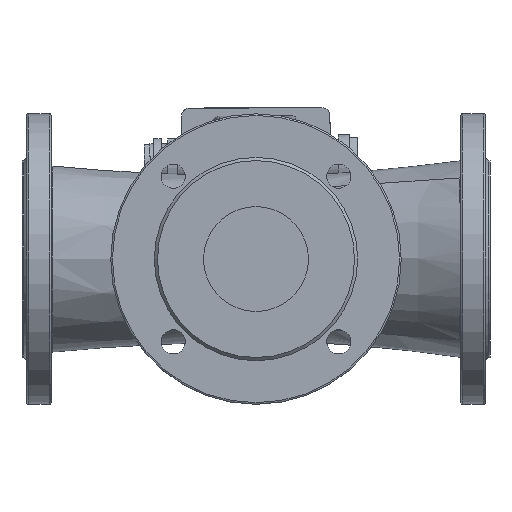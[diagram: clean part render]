
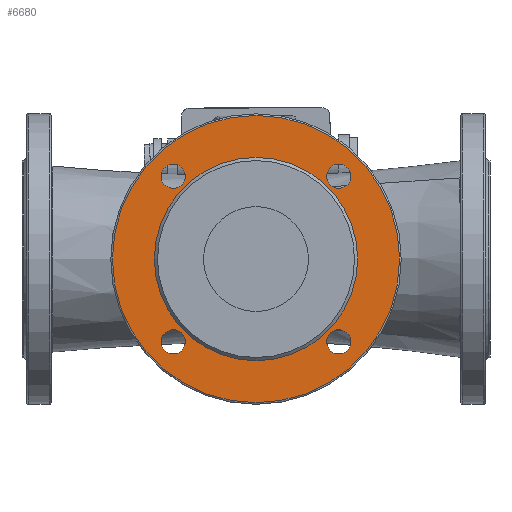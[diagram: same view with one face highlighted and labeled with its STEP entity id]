
A CAD part, front view. The second image highlights one B-rep face of the part: STEP entity #6680.
In plain terms, the highlighted planar face has unit normal (0, -1, 0).
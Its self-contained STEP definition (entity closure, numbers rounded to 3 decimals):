
#1333=PLANE('',#7436);
#1459=FACE_BOUND('',#2404,.T.);
#1460=FACE_BOUND('',#2405,.T.);
#1461=FACE_BOUND('',#2406,.T.);
#1462=FACE_BOUND('',#2407,.T.);
#1463=FACE_BOUND('',#2408,.T.);
#1878=FACE_OUTER_BOUND('',#2403,.T.);
#2403=EDGE_LOOP('',(#6084));
#2404=EDGE_LOOP('',(#6085));
#2405=EDGE_LOOP('',(#6086));
#2406=EDGE_LOOP('',(#6087));
#2407=EDGE_LOOP('',(#6088));
#2408=EDGE_LOOP('',(#6089));
#2753=CIRCLE('',#7375,7.5);
#2755=CIRCLE('',#7378,7.5);
#2757=CIRCLE('',#7381,7.5);
#2759=CIRCLE('',#7384,7.5);
#2789=CIRCLE('',#7435,63.);
#2790=CIRCLE('',#7437,89.);
#3365=VERTEX_POINT('',#11550);
#3367=VERTEX_POINT('',#11555);
#3369=VERTEX_POINT('',#11560);
#3371=VERTEX_POINT('',#11565);
#3416=VERTEX_POINT('',#12801);
#3417=VERTEX_POINT('',#12804);
#4266=EDGE_CURVE('',#3365,#3365,#2753,.T.);
#4268=EDGE_CURVE('',#3367,#3367,#2755,.T.);
#4270=EDGE_CURVE('',#3369,#3369,#2757,.T.);
#4272=EDGE_CURVE('',#3371,#3371,#2759,.T.);
#4322=EDGE_CURVE('',#3416,#3416,#2789,.T.);
#4323=EDGE_CURVE('',#3417,#3417,#2790,.T.);
#6084=ORIENTED_EDGE('',*,*,#4323,.F.);
#6085=ORIENTED_EDGE('',*,*,#4266,.T.);
#6086=ORIENTED_EDGE('',*,*,#4268,.T.);
#6087=ORIENTED_EDGE('',*,*,#4270,.T.);
#6088=ORIENTED_EDGE('',*,*,#4272,.T.);
#6089=ORIENTED_EDGE('',*,*,#4322,.F.);
#6680=ADVANCED_FACE('',(#1878,#1459,#1460,#1461,#1462,#1463),#1333,.T.);
#7375=AXIS2_PLACEMENT_3D('',#11551,#9292,#9293);
#7378=AXIS2_PLACEMENT_3D('',#11556,#9298,#9299);
#7381=AXIS2_PLACEMENT_3D('',#11561,#9304,#9305);
#7384=AXIS2_PLACEMENT_3D('',#11566,#9310,#9311);
#7435=AXIS2_PLACEMENT_3D('',#12802,#9413,#9414);
#7436=AXIS2_PLACEMENT_3D('',#12803,#9415,#9416);
#7437=AXIS2_PLACEMENT_3D('',#12805,#9417,#9418);
#9292=DIRECTION('center_axis',(0.,1.,0.));
#9293=DIRECTION('ref_axis',(-0.581,0.,0.814));
#9298=DIRECTION('center_axis',(0.,1.,0.));
#9299=DIRECTION('ref_axis',(-0.814,0.,-0.581));
#9304=DIRECTION('center_axis',(0.,1.,0.));
#9305=DIRECTION('ref_axis',(0.581,0.,-0.814));
#9310=DIRECTION('center_axis',(0.,1.,0.));
#9311=DIRECTION('ref_axis',(0.814,0.,0.581));
#9413=DIRECTION('center_axis',(0.,-1.,0.));
#9414=DIRECTION('ref_axis',(0.814,0.,-0.581));
#9415=DIRECTION('center_axis',(0.,-1.,0.));
#9416=DIRECTION('ref_axis',(0.,0.,-1.));
#9417=DIRECTION('center_axis',(0.,1.,0.));
#9418=DIRECTION('ref_axis',(0.,0.,
-1.));
#11550=CARTESIAN_POINT('',(1400.691,844.397,1009.705));
#11551=CARTESIAN_POINT('Origin',(1400.691,844.397,1002.205));
#11555=CARTESIAN_POINT('',(1393.191,844.397,899.675));
#11556=CARTESIAN_POINT('Origin',(1400.691,844.397,899.675));
#11560=CARTESIAN_POINT('',(1503.222,844.397,892.175));
#11561=CARTESIAN_POINT('Origin',(1503.222,844.397,899.675));
#11565=CARTESIAN_POINT('',(1510.722,844.397,1002.205));
#11566=CARTESIAN_POINT('Origin',(1503.222,844.397,1002.205));
#12801=CARTESIAN_POINT('',(1514.956,844.397,950.94));
#12802=CARTESIAN_POINT('Origin',(1451.956,844.397,950.94));
#12803=CARTESIAN_POINT('Origin',(1362.956,844.397,950.94));
#12804=CARTESIAN_POINT('',(1540.956,844.397,950.94));
#12805=CARTESIAN_POINT('Origin',(1451.956,844.397,950.94));
